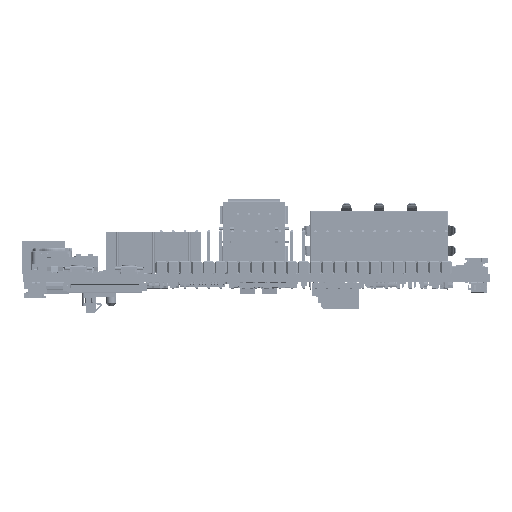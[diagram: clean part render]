
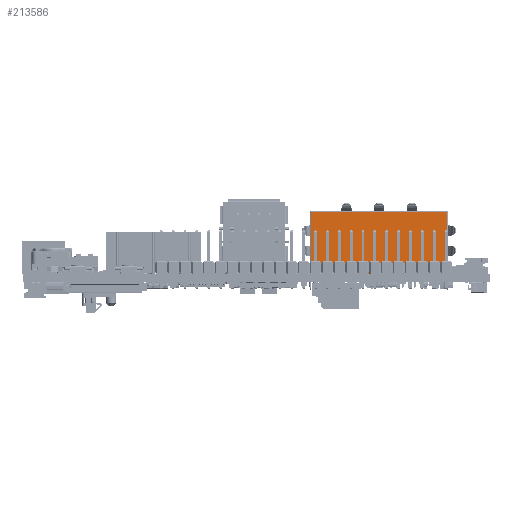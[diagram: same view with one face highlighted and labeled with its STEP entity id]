
A CAD part, front view. The second image highlights one B-rep face of the part: STEP entity #213586.
In plain terms, the highlighted planar face has unit normal (0, -1, 0) as drawn and (0, 1, 0) by its records, which use the part's own axes.
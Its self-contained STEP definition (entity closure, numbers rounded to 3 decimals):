
#213586 = ADVANCED_FACE('',(#213587),#213621,.F.);
#213587 = FACE_BOUND('',#213588,.F.);
#213588 = EDGE_LOOP('',(#213589,#213599,#213607,#213615));
#213589 = ORIENTED_EDGE('',*,*,#213590,.F.);
#213590 = EDGE_CURVE('',#213591,#213593,#213595,.T.);
#213591 = VERTEX_POINT('',#213592);
#213592 = CARTESIAN_POINT('',(14.54,25.4,13.411));
#213593 = VERTEX_POINT('',#213594);
#213594 = CARTESIAN_POINT('',(14.54,25.4,0.351));
#213595 = LINE('',#213596,#213597);
#213596 = CARTESIAN_POINT('',(14.54,25.4,13.411));
#213597 = VECTOR('',#213598,1.);
#213598 = DIRECTION('',(0.,0.,-1.));
#213599 = ORIENTED_EDGE('',*,*,#213600,.F.);
#213600 = EDGE_CURVE('',#213601,#213591,#213603,.T.);
#213601 = VERTEX_POINT('',#213602);
#213602 = CARTESIAN_POINT('',(-14.58,25.4,13.411));
#213603 = LINE('',#213604,#213605);
#213604 = CARTESIAN_POINT('',(-14.58,25.4,13.411));
#213605 = VECTOR('',#213606,1.);
#213606 = DIRECTION('',(1.,0.,0.));
#213607 = ORIENTED_EDGE('',*,*,#213608,.F.);
#213608 = EDGE_CURVE('',#213609,#213601,#213611,.T.);
#213609 = VERTEX_POINT('',#213610);
#213610 = CARTESIAN_POINT('',(-14.58,25.4,0.351));
#213611 = LINE('',#213612,#213613);
#213612 = CARTESIAN_POINT('',(-14.58,25.4,0.351));
#213613 = VECTOR('',#213614,1.);
#213614 = DIRECTION('',(0.,0.,1.));
#213615 = ORIENTED_EDGE('',*,*,#213616,.T.);
#213616 = EDGE_CURVE('',#213609,#213593,#213617,.T.);
#213617 = LINE('',#213618,#213619);
#213618 = CARTESIAN_POINT('',(-14.58,25.4,0.351));
#213619 = VECTOR('',#213620,1.);
#213620 = DIRECTION('',(1.,0.,0.));
#213621 = PLANE('',#213622);
#213622 = AXIS2_PLACEMENT_3D('',#213623,#213624,#213625);
#213623 = CARTESIAN_POINT('',(-0.02,25.4,6.901));
#213624 = DIRECTION('',(0.,-1.,0.));
#213625 = DIRECTION('',(1.,0.,0.));
